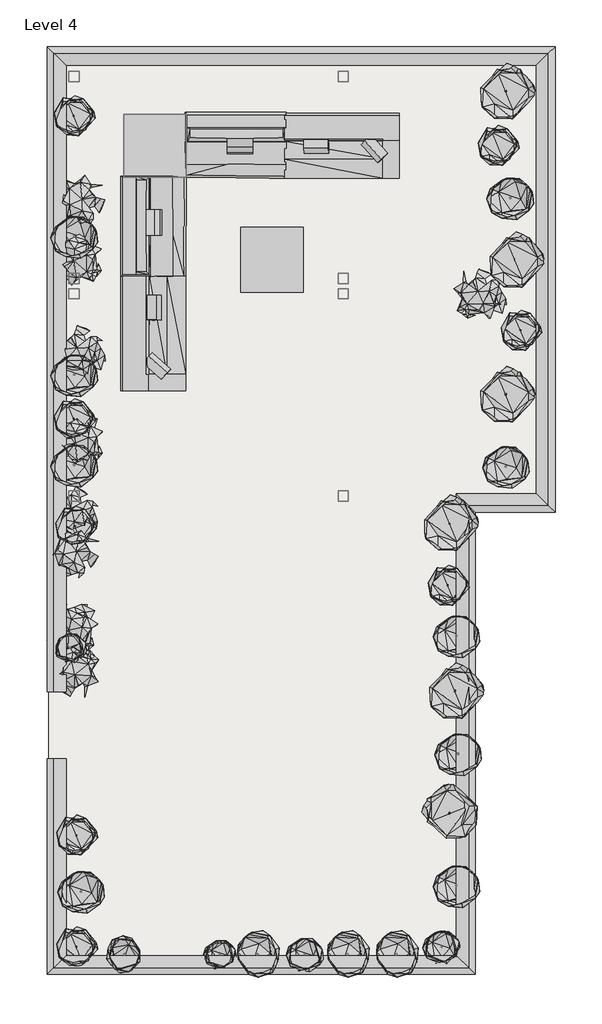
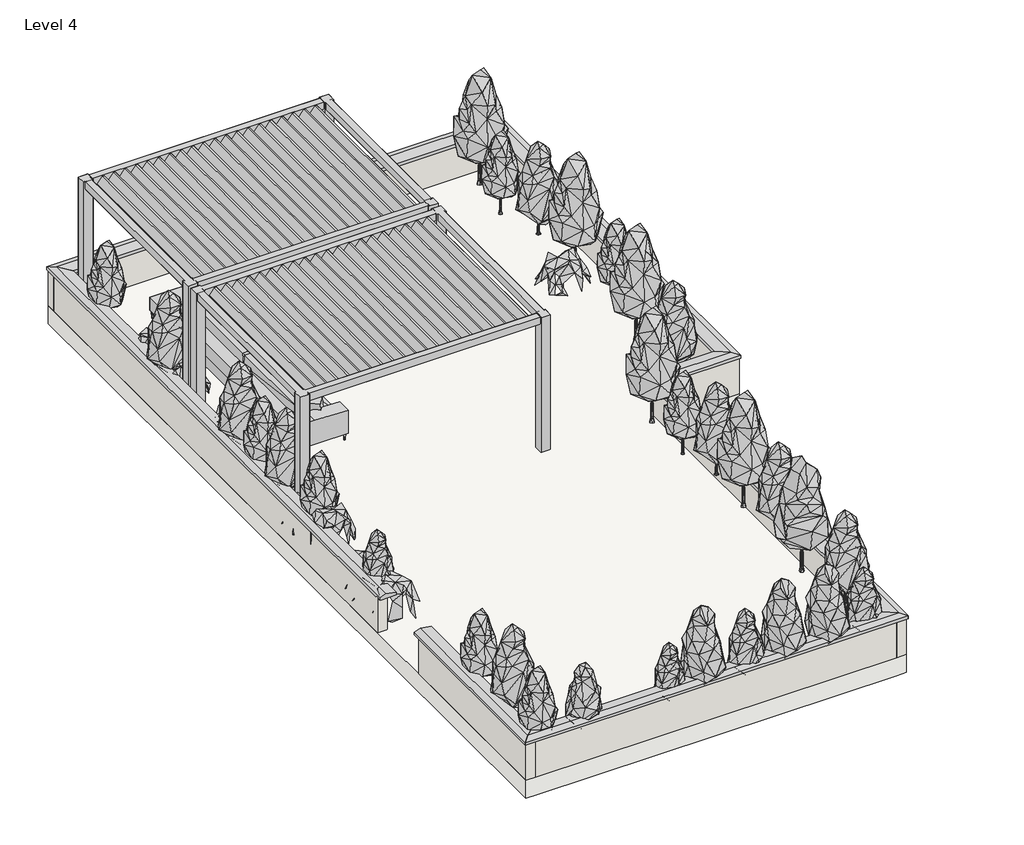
# One storey: 48 geographic elements, 7 proxies, 7 walls, 1 slab.
"""IFC4 building model written with IfcOpenShell, lengths in millimetres."""

from ifc_helpers import new_model, si_unit, frame, origin, place, context, project, spatial, polyline, outline, extrude, faceted_brep, transform, mapped, element, save
from components import geographic_element_4fbb4c08, geographic_element_da99b235, geographic_element_81580eb1, geographic_element_a222e020, geographic_element_6690d7ba, geographic_element_f48ce2c9, enscape_assetdefinition_pergola_001_enscape_assetdefinition_72efe9a7, enscape_assetdefinition_sofa_056_outdoor_modular_enscape_4c990bfc, enscape_assetdefinition_sofa_056_outdoor_modular_enscape_2671a9af, enscape_assetdefinition_sofa_057_outdoor_modular_enscape_592e224a, enscape_assetdefinition_sofa_058_outdoor_modular_enscape_2d4d97e4, enscape_assetdefinition_table_051_outdoor_enscape_9c42c7a7

model = new_model("IFC4")

# Units and contexts
model_context = context("Model", 3, world=origin())
ifc_project = project(units=[si_unit("LENGTHUNIT", "METRE", prefix="MILLI")], contexts=[model_context])

# Site, building, storey
site = spatial("IfcSite", under=ifc_project)
building = spatial("IfcBuilding", under=site)
storey = spatial("IfcBuildingStorey", under=building, Name="Level 4", Elevation=7400.0)

# Proxies
placement = place(None, origin())
element("IfcBuildingElementProxy", 1, Name="Wall Sweeps", at=placement, inside=storey, context=model_context, shape_type="Brep", body=[
    faceted_brep([(24412.9337784, 1697.1206658, 8263.5), (24412.9337784, 1697.1206658, 8200.0), (24768.5337784, 1341.5206658, 8200.0), (24768.5337784, 1341.5206658, 8263.5), (24641.5337784, 1468.5206658, 8301.6), (24412.9337784, 10384.920421, 8263.5), (24641.5337784, 10156.320421, 8301.6), (24768.5337784, 10029.320421, 8263.5), (24768.5337784, 10029.320421, 8200.0), (24412.9337784, 10384.920421, 8200.0)], [[[0, 1, 2, 3, 4]], [[5, 6, 7, 8, 9]], [[1, 0, 5, 9]], [[2, 1, 9, 8]], [[3, 2, 8, 7]], [[4, 3, 7, 6]], [[0, 4, 6, 5]]]),
])
element("IfcBuildingElementProxy", 2, Name="Wall Sweeps", at=placement, inside=storey, context=model_context, shape_type="Brep", body=[
    faceted_brep([(24412.9337784, 10384.920421, 8263.5), (24412.9337784, 10384.920421, 8200.0), (24768.5337784, 10029.320421, 8200.0), (24768.5337784, 10029.320421, 8263.5), (24641.5337784, 10156.320421, 8301.6), (25912.9337784, 10384.920421, 8263.5), (26141.5337784, 10156.320421, 8301.6), (26268.5337784, 10029.320421, 8263.5), (26268.5337784, 10029.320421, 8200.0), (25912.9337784, 10384.920421, 8200.0)], [[[0, 1, 2, 3, 4]], [[5, 6, 7, 8, 9]], [[1, 0, 5, 9]], [[2, 1, 9, 8]], [[3, 2, 8, 7]], [[4, 3, 7, 6]], [[0, 4, 6, 5]]]),
])
element("IfcBuildingElementProxy", 3, Name="Wall Sweeps", at=placement, inside=storey, context=model_context, shape_type="Brep", body=[
    faceted_brep([(25912.9337784, 10384.920421, 8263.5), (25912.9337784, 10384.920421, 8200.0), (26268.5337784, 10029.320421, 8200.0), (26268.5337784, 10029.320421, 8263.5), (26141.5337784, 10156.320421, 8301.6), (25912.9337784, 18436.7206658, 8263.5), (26141.5337784, 18665.3206658, 8301.6), (26268.5337784, 18792.3206658, 8263.5), (26268.5337784, 18792.3206658, 8200.0), (25912.9337784, 18436.7206658, 8200.0)], [[[0, 1, 2, 3, 4]], [[5, 6, 7, 8, 9]], [[1, 0, 5, 9]], [[2, 1, 9, 8]], [[3, 2, 8, 7]], [[4, 3, 7, 6]], [[0, 4, 6, 5]]]),
])
element("IfcBuildingElementProxy", 4, Name="Wall Sweeps", at=placement, inside=storey, context=model_context, shape_type="Brep", body=[
    faceted_brep([(25912.9337784, 18436.7206658, 8263.5), (25912.9337784, 18436.7206658, 8200.0), (26268.5337784, 18792.3206658, 8200.0), (26268.5337784, 18792.3206658, 8263.5), (26141.5337784, 18665.3206658, 8301.6), (17073.3337784, 18436.7206658, 8263.5), (16844.7337784, 18665.3206658, 8301.6), (16717.7337784, 18792.3206658, 8263.5), (16717.7337784, 18792.3206658, 8200.0), (17073.3337784, 18436.7206658, 8200.0)], [[[0, 1, 2, 3, 4]], [[5, 6, 7, 8, 9]], [[1, 0, 5, 9]], [[2, 1, 9, 8]], [[3, 2, 8, 7]], [[4, 3, 7, 6]], [[0, 4, 6, 5]]]),
])
element("IfcBuildingElementProxy", 5, Name="Wall Sweeps", at=placement, inside=storey, context=model_context, shape_type="Brep", body=[
    faceted_brep([(17073.3337784, 18436.7206658, 8263.5), (17073.3337784, 18436.7206658, 8200.0), (16717.7337784, 18792.3206658, 8200.0), (16717.7337784, 18792.3206658, 8263.5), (16844.7337784, 18665.3206658, 8301.6), (17073.3337784, 6655.457015, 8200.0), (17073.3337784, 6655.457015, 8263.5), (16844.7337784, 6655.457015, 8301.6), (16717.7337784, 6655.457015, 8263.5), (16717.7337784, 6655.457015, 8209.1828048), (16733.776024, 6655.457015, 8217.6757583), (16743.1337784, 6655.457015, 8200.0), (16743.1337784, 6795.457015, 8200.0), (16717.7337784, 6795.457015, 8200.0), (16717.7337784, 6795.457015, 8209.1828048), (16717.7337784, 6725.457015, 8243.1276002), (16733.776024, 6795.457015, 8217.6757583), (16719.7393923, 6725.457015, 8244.1893958)], [[[0, 1, 2, 3, 4]], [[5, 6, 7, 8, 9, 10, 11]], [[1, 0, 6, 5]], [[2, 1, 5, 11, 12, 13]], [[3, 2, 13, 14, 15, 9, 8]], [[4, 3, 8, 7]], [[0, 4, 7, 6]], [[16, 12, 11, 10, 17]], [[12, 16, 14, 13]], [[16, 17, 15, 14]], [[17, 10, 9, 15]]]),
])
element("IfcBuildingElementProxy", 6, Name="Wall Sweeps", at=placement, inside=storey, context=model_context, shape_type="Brep", body=[
    faceted_brep([(17073.3337784, 1697.1206658, 8263.5), (17073.3337784, 1697.1206658, 8200.0), (16717.7337784, 1341.5206658, 8200.0), (16717.7337784, 1341.5206658, 8263.5), (16844.7337784, 1468.5206658, 8301.6), (24412.9337784, 1697.1206658, 8263.5), (24641.5337784, 1468.5206658, 8301.6), (24768.5337784, 1341.5206658, 8263.5), (24768.5337784, 1341.5206658, 8200.0), (24412.9337784, 1697.1206658, 8200.0)], [[[0, 1, 2, 3, 4]], [[5, 6, 7, 8, 9]], [[1, 0, 5, 9]], [[2, 1, 9, 8]], [[3, 2, 8, 7]], [[4, 3, 7, 6]], [[0, 4, 6, 5]]]),
])
element("IfcBuildingElementProxy", 7, Name="Wall Sweeps", at=placement, inside=storey, context=model_context, shape_type="Brep", body=[
    faceted_brep([(17073.3337784, 5395.457015, 8263.5), (17073.3337784, 5395.457015, 8200.0), (16717.7337784, 5395.457015, 8200.0), (16717.7337784, 5395.457015, 8263.5), (16844.7337784, 5395.457015, 8301.6), (17073.3337784, 1697.1206658, 8263.5), (16844.7337784, 1468.5206658, 8301.6), (16717.7337784, 1341.5206658, 8263.5), (16717.7337784, 1341.5206658, 8200.0), (17073.3337784, 1697.1206658, 8200.0)], [[[0, 1, 2, 3, 4]], [[5, 6, 7, 8, 9]], [[1, 0, 5, 9]], [[2, 1, 9, 8]], [[3, 2, 8, 7]], [[4, 3, 7, 6]], [[0, 4, 6, 5]]]),
])

# Geographic elements
geographic_element_shape = geographic_element_4fbb4c08(model_context)
element("IfcGeographicElement", 8, ObjectType="Enscape AssetDefinition - Potted Plant 230 Grapevines : Enscape AssetDefinition - Potted Plant 230 Grapevines 2", at=placement, inside=storey, context=model_context, shape_type="MappedRepresentation", body=[
    mapped(geographic_element_shape, transform((17197.5617853, 9259.5001842, 8120.0), x_axis=(-0.7986355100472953, -0.6018150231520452, 0.0), y_axis=(0.6018150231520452, -0.7986355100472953, 0.0), z_axis=(0.0, 0.0, 1.0))),
])
element("IfcGeographicElement", 9, ObjectType="Enscape AssetDefinition - Potted Plant 230 Grapevines : Enscape AssetDefinition - Potted Plant 230 Grapevines 2", at=placement, inside=storey, context=model_context, shape_type="MappedRepresentation", body=[
    mapped(geographic_element_shape, transform((24871.314904, 14125.4182346, 8120.0), x_axis=(0.7434077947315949, -0.668838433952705, 0.0), y_axis=(0.668838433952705, 0.7434077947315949, 0.0), z_axis=(0.0, 0.0, 1.0))),
])
element("IfcGeographicElement", 10, ObjectType="Enscape AssetDefinition - Potted Plant 230 Grapevines : Enscape AssetDefinition - Potted Plant 230 Grapevines 2", at=placement, inside=storey, context=model_context, shape_type="MappedRepresentation", body=[
    mapped(geographic_element_shape, transform((17197.5617853, 7051.1962172, 7911.7582557), x_axis=(-0.6018150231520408, 0.7986355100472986, 0.0), y_axis=(-0.7986355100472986, -0.6018150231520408, 0.0), z_axis=(0.0, 0.0, 1.0))),
])
element("IfcGeographicElement", 11, ObjectType="Enscape AssetDefinition - Potted Plant 230 Grapevines : Enscape AssetDefinition - Potted Plant 230 Grapevines 2", at=placement, inside=storey, context=model_context, shape_type="MappedRepresentation", body=[
    mapped(geographic_element_shape, transform((17197.5617853, 7851.1962172, 7911.7582557), x_axis=(0.7986355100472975, 0.6018150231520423, 0.0), y_axis=(-0.6018150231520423, 0.7986355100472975, 0.0), z_axis=(0.0, 0.0, 1.0))),
])
element("IfcGeographicElement", 12, ObjectType="Enscape AssetDefinition - Potted Plant 230 Grapevines : Enscape AssetDefinition - Potted Plant 230 Grapevines 2", at=placement, inside=storey, context=model_context, shape_type="MappedRepresentation", body=[
    mapped(geographic_element_shape, transform((17207.5630542, 10035.5113529, 7911.7582557), x_axis=(0.6018150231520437, -0.7986355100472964, 0.0), y_axis=(0.7986355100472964, 0.6018150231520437, 0.0), z_axis=(0.0, 0.0, 1.0))),
])
element("IfcGeographicElement", 13, ObjectType="Enscape AssetDefinition - Potted Plant 230 Grapevines : Enscape AssetDefinition - Potted Plant 230 Grapevines 2", at=placement, inside=storey, context=model_context, shape_type="MappedRepresentation", body=[
    mapped(geographic_element_shape, transform((17313.2376066, 15864.5618164, 7993.046519), x_axis=(-0.668838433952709, -0.7434077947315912, 0.0), y_axis=(0.7434077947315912, -0.668838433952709, 0.0), z_axis=(0.0, 0.0, 1.0))),
])
element("IfcGeographicElement", 14, ObjectType="Enscape AssetDefinition - Potted Plant 230 Grapevines : Enscape AssetDefinition - Potted Plant 230 Grapevines 2", at=placement, inside=storey, context=model_context, shape_type="MappedRepresentation", body=[
    mapped(geographic_element_shape, transform((17325.3387926, 13063.7267825, 8000.2535727), x_axis=(0.7434077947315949, -0.668838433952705, 0.0), y_axis=(0.668838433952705, 0.7434077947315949, 0.0), z_axis=(0.0, 0.0, 1.0))),
])
element("IfcGeographicElement", 15, ObjectType="Enscape AssetDefinition - Potted Plant 230 Grapevines : Enscape AssetDefinition - Potted Plant 230 Grapevines 2", at=placement, inside=storey, context=model_context, shape_type="MappedRepresentation", body=[
    mapped(geographic_element_shape, transform((17311.1227499, 11386.6670564, 8000.2535727), x_axis=(0.6688384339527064, 0.7434077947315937, 0.0), y_axis=(-0.7434077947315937, 0.6688384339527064, 0.0), z_axis=(0.0, 0.0, 1.0))),
])
element("IfcGeographicElement", 16, ObjectType="Enscape AssetDefinition - Potted Plant 230 Grapevines : Enscape AssetDefinition - Potted Plant 230 Grapevines 2", at=placement, inside=storey, context=model_context, shape_type="MappedRepresentation", body=[
    mapped(geographic_element_shape, transform((17284.4679763, 14816.3112464, 7993.046519), x_axis=(0.6688384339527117, 0.7434077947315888, 0.0), y_axis=(-0.7434077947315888, 0.6688384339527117, 0.0), z_axis=(0.0, 0.0, 1.0))),
])
geographic_element_2_shape = geographic_element_da99b235(model_context)
element("IfcGeographicElement", 17, ObjectType="Enscape AssetDefinition - Coniferous Tree 015 Spruce : Enscape AssetDefinition - Coniferous Tree 015 Spruce 2", at=placement, inside=storey, context=model_context, shape_type="MappedRepresentation", body=[
    mapped(geographic_element_2_shape, transform((25343.1337784, 10896.9206658, 7702.6603841), x_axis=(1.0, 0.0, 0.0), y_axis=(0.0, 1.0, 0.0), z_axis=(0.0, 0.0, 1.0))),
])
element("IfcGeographicElement", 18, ObjectType="Enscape AssetDefinition - Coniferous Tree 015 Spruce : Enscape AssetDefinition - Coniferous Tree 015 Spruce 2", at=placement, inside=storey, context=model_context, shape_type="MappedRepresentation", body=[
    mapped(geographic_element_2_shape, transform((17352.827151, 2906.6140384, 7702.6603841), x_axis=(1.0, 0.0, 0.0), y_axis=(0.0, 1.0, 0.0), z_axis=(0.0, 0.0, 1.0))),
])
element("IfcGeographicElement", 19, ObjectType="Enscape AssetDefinition - Coniferous Tree 015 Spruce : Enscape AssetDefinition - Coniferous Tree 015 Spruce 2", at=placement, inside=storey, context=model_context, shape_type="MappedRepresentation", body=[
    mapped(geographic_element_2_shape, transform((23282.1656341, 1721.120291, 7702.6603841), x_axis=(0.0, 1.0, 0.0), y_axis=(-1.0, 0.0, 0.0), z_axis=(0.0, 0.0, 1.0))),
])
element("IfcGeographicElement", 20, ObjectType="Enscape AssetDefinition - Coniferous Tree 015 Spruce : Enscape AssetDefinition - Coniferous Tree 015 Spruce 2", at=placement, inside=storey, context=model_context, shape_type="MappedRepresentation", body=[
    mapped(geographic_element_2_shape, transform((24412.9337784, 3011.8884353, 7702.6603841), x_axis=(1.0, 0.0, 0.0), y_axis=(0.0, 1.0, 0.0), z_axis=(0.0, 0.0, 1.0))),
])
element("IfcGeographicElement", 21, ObjectType="Enscape AssetDefinition - Coniferous Tree 015 Spruce : Enscape AssetDefinition - Coniferous Tree 015 Spruce 2", at=placement, inside=storey, context=model_context, shape_type="MappedRepresentation", body=[
    mapped(geographic_element_2_shape, transform((24412.9337784, 7711.8884353, 7702.6603841), x_axis=(1.0, 0.0, 0.0), y_axis=(0.0, 1.0, 0.0), z_axis=(0.0, 0.0, 1.0))),
])
element("IfcGeographicElement", 22, ObjectType="Enscape AssetDefinition - Coniferous Tree 015 Spruce : Enscape AssetDefinition - Coniferous Tree 015 Spruce 2", at=placement, inside=storey, context=model_context, shape_type="MappedRepresentation", body=[
    mapped(geographic_element_2_shape, transform((25424.4493286, 15950.021494, 7702.6603841), x_axis=(1.0, 0.0, 0.0), y_axis=(0.0, 1.0, 0.0), z_axis=(0.0, 0.0, 1.0))),
])
element("IfcGeographicElement", 23, ObjectType="Enscape AssetDefinition - Coniferous Tree 015 Spruce : Enscape AssetDefinition - Coniferous Tree 015 Spruce 2", at=placement, inside=storey, context=model_context, shape_type="MappedRepresentation", body=[
    mapped(geographic_element_2_shape, transform((24443.1337784, 5490.920291, 7702.6603841), x_axis=(1.0, 0.0, 0.0), y_axis=(0.0, 1.0, 0.0), z_axis=(0.0, 0.0, 1.0))),
])
element("IfcGeographicElement", 24, ObjectType="Enscape AssetDefinition - Coniferous Tree 015 Spruce : Enscape AssetDefinition - Coniferous Tree 015 Spruce 2", at=placement, inside=storey, context=model_context, shape_type="MappedRepresentation", body=[
    mapped(geographic_element_2_shape, transform((20669.1329858, 1721.120291, 7702.6603841), x_axis=(0.0, 1.0, 0.0), y_axis=(-1.0, 0.0, 0.0), z_axis=(0.0, 0.0, 1.0))),
])
element("IfcGeographicElement", 25, ObjectType="Enscape AssetDefinition - Coniferous Tree 015 Spruce : Enscape AssetDefinition - Coniferous Tree 015 Spruce 2", at=placement, inside=storey, context=model_context, shape_type="MappedRepresentation", body=[
    mapped(geographic_element_2_shape, transform((22361.7355079, 1721.120291, 7702.6603841), x_axis=(0.0, 1.0, 0.0), y_axis=(-1.0, 0.0, 0.0), z_axis=(0.0, 0.0, 1.0))),
])
element("IfcGeographicElement", 26, ObjectType="Enscape AssetDefinition - Coniferous Tree 015 Spruce : Enscape AssetDefinition - Coniferous Tree 015 Spruce 2", at=placement, inside=storey, context=model_context, shape_type="MappedRepresentation", body=[
    mapped(geographic_element_2_shape, transform((17224.5086923, 12622.5876996, 7702.6603841), x_axis=(1.0, 0.0, 0.0), y_axis=(0.0, 1.0, 0.0), z_axis=(0.0, 0.0, 1.0))),
])
element("IfcGeographicElement", 27, ObjectType="Enscape AssetDefinition - Coniferous Tree 015 Spruce : Enscape AssetDefinition - Coniferous Tree 015 Spruce 2", at=placement, inside=storey, context=model_context, shape_type="MappedRepresentation", body=[
    mapped(geographic_element_2_shape, transform((17224.5086923, 10922.5876996, 7702.6603841), x_axis=(1.0, 0.0, 0.0), y_axis=(0.0, 1.0, 0.0), z_axis=(0.0, 0.0, 1.0))),
])
element("IfcGeographicElement", 28, ObjectType="Enscape AssetDefinition - Coniferous Tree 015 Spruce : Enscape AssetDefinition - Coniferous Tree 015 Spruce 2", at=placement, inside=storey, context=model_context, shape_type="MappedRepresentation", body=[
    mapped(geographic_element_2_shape, transform((17224.5086923, 15222.5876996, 7702.6603841), x_axis=(1.0, 0.0, 0.0), y_axis=(0.0, 1.0, 0.0), z_axis=(0.0, 0.0, 1.0))),
])
geographic_element_3_shape = geographic_element_81580eb1(model_context)
element("IfcGeographicElement", 29, ObjectType="Enscape AssetDefinition - Coniferous Tree 017 Spruce : Enscape AssetDefinition - Coniferous Tree 017 Spruce 2", at=placement, inside=storey, context=model_context, shape_type="MappedRepresentation", body=[
    mapped(geographic_element_3_shape, transform((25343.1337784, 12250.9617023, 7638.4648801), x_axis=(1.0, 0.0, 0.0), y_axis=(0.0, 1.0, 0.0), z_axis=(0.0, 0.0, 1.0))),
])
element("IfcGeographicElement", 30, ObjectType="Enscape AssetDefinition - Coniferous Tree 017 Spruce : Enscape AssetDefinition - Coniferous Tree 017 Spruce 2", at=placement, inside=storey, context=model_context, shape_type="MappedRepresentation", body=[
    mapped(geographic_element_3_shape, transform((25343.1337784, 17950.9617023, 7638.4648801), x_axis=(1.0, 0.0, 0.0), y_axis=(0.0, 1.0, 0.0), z_axis=(0.0, 0.0, 1.0))),
])
element("IfcGeographicElement", 31, ObjectType="Enscape AssetDefinition - Coniferous Tree 017 Spruce : Enscape AssetDefinition - Coniferous Tree 017 Spruce 2", at=placement, inside=storey, context=model_context, shape_type="MappedRepresentation", body=[
    mapped(geographic_element_3_shape, transform((24283.3250352, 4373.541909, 7638.4648801), x_axis=(0.0, 1.0, 0.0), y_axis=(-1.0, 0.0, 0.0), z_axis=(0.0, 0.0, 1.0))),
])
element("IfcGeographicElement", 32, ObjectType="Enscape AssetDefinition - Coniferous Tree 017 Spruce : Enscape AssetDefinition - Coniferous Tree 017 Spruce 2", at=placement, inside=storey, context=model_context, shape_type="MappedRepresentation", body=[
    mapped(geographic_element_3_shape, transform((24283.3250352, 9833.541909, 7638.4648801), x_axis=(1.0, 0.0, 0.0), y_axis=(0.0, 1.0, 0.0), z_axis=(0.0, 0.0, 1.0))),
])
element("IfcGeographicElement", 33, ObjectType="Enscape AssetDefinition - Coniferous Tree 017 Spruce : Enscape AssetDefinition - Coniferous Tree 017 Spruce 2", at=placement, inside=storey, context=model_context, shape_type="MappedRepresentation", body=[
    mapped(geographic_element_3_shape, transform((25517.1267027, 14782.050113, 7638.4648801), x_axis=(1.0, 0.0, 0.0), y_axis=(0.0, 1.0, 0.0), z_axis=(0.0, 0.0, 1.0))),
])
element("IfcGeographicElement", 34, ObjectType="Enscape AssetDefinition - Coniferous Tree 017 Spruce : Enscape AssetDefinition - Coniferous Tree 017 Spruce 2", at=placement, inside=storey, context=model_context, shape_type="MappedRepresentation", body=[
    mapped(geographic_element_3_shape, transform((24384.6952586, 6675.457015, 7638.4648801), x_axis=(1.0, 0.0, 0.0), y_axis=(0.0, 1.0, 0.0), z_axis=(0.0, 0.0, 1.0))),
])
geographic_element_4_shape = geographic_element_a222e020(model_context)
element("IfcGeographicElement", 35, ObjectType="Enscape AssetDefinition - Coniferous Tree 017 Spruce : Enscape AssetDefinition - Coniferous Tree 017 Spruce 4", at=placement, inside=storey, context=model_context, shape_type="MappedRepresentation", body=[
    mapped(geographic_element_4_shape, transform((24252.1788659, 8660.1839297, 7638.4648801), x_axis=(1.0, 0.0, 0.0), y_axis=(0.0, 1.0, 0.0), z_axis=(0.0, 0.0, 1.0))),
])
element("IfcGeographicElement", 36, ObjectType="Enscape AssetDefinition - Coniferous Tree 017 Spruce : Enscape AssetDefinition - Coniferous Tree 017 Spruce 4", at=placement, inside=storey, context=model_context, shape_type="MappedRepresentation", body=[
    mapped(geographic_element_4_shape, transform((17239.5916476, 9770.8686315, 7638.4648801), x_axis=(1.0, 0.0, 0.0), y_axis=(0.0, 1.0, 0.0), z_axis=(0.0, 0.0, 1.0))),
])
element("IfcGeographicElement", 37, ObjectType="Enscape AssetDefinition - Coniferous Tree 017 Spruce : Enscape AssetDefinition - Coniferous Tree 017 Spruce 4", at=placement, inside=storey, context=model_context, shape_type="MappedRepresentation", body=[
    mapped(geographic_element_4_shape, transform((25191.2412802, 16930.5661195, 7638.4648801), x_axis=(1.0, 0.0, 0.0), y_axis=(0.0, 1.0, 0.0), z_axis=(0.0, 0.0, 1.0))),
])
element("IfcGeographicElement", 38, ObjectType="Enscape AssetDefinition - Coniferous Tree 017 Spruce : Enscape AssetDefinition - Coniferous Tree 017 Spruce 4", at=placement, inside=storey, context=model_context, shape_type="MappedRepresentation", body=[
    mapped(geographic_element_4_shape, transform((25617.7839822, 13456.6545888, 7638.4648801), x_axis=(1.0, 0.0, 0.0), y_axis=(0.0, 1.0, 0.0), z_axis=(0.0, 0.0, 1.0))),
])
element("IfcGeographicElement", 39, ObjectType="Enscape AssetDefinition - Coniferous Tree 017 Spruce : Enscape AssetDefinition - Coniferous Tree 017 Spruce 4", at=placement, inside=storey, context=model_context, shape_type="MappedRepresentation", body=[
    mapped(geographic_element_4_shape, transform((17262.5992512, 1862.0910974, 7638.4648801), x_axis=(1.0, 0.0, 0.0), y_axis=(0.0, 1.0, 0.0), z_axis=(0.0, 0.0, 1.0))),
])
element("IfcGeographicElement", 40, ObjectType="Enscape AssetDefinition - Coniferous Tree 017 Spruce : Enscape AssetDefinition - Coniferous Tree 017 Spruce 4", at=placement, inside=storey, context=model_context, shape_type="MappedRepresentation", body=[
    mapped(geographic_element_4_shape, transform((17262.5992512, 3962.0910974, 7638.4648801), x_axis=(1.0, 0.0, 0.0), y_axis=(0.0, 1.0, 0.0), z_axis=(0.0, 0.0, 1.0))),
])
element("IfcGeographicElement", 41, ObjectType="Enscape AssetDefinition - Coniferous Tree 017 Spruce : Enscape AssetDefinition - Coniferous Tree 017 Spruce 4", at=placement, inside=storey, context=model_context, shape_type="MappedRepresentation", body=[
    mapped(geographic_element_4_shape, transform((17217.878842, 11792.0560814, 7638.4648801), x_axis=(1.0, 0.0, 0.0), y_axis=(0.0, 1.0, 0.0), z_axis=(0.0, 0.0, 1.0))),
])
element("IfcGeographicElement", 42, ObjectType="Enscape AssetDefinition - Coniferous Tree 017 Spruce : Enscape AssetDefinition - Coniferous Tree 017 Spruce 4", at=placement, inside=storey, context=model_context, shape_type="MappedRepresentation", body=[
    mapped(geographic_element_4_shape, transform((17217.878842, 17492.0560814, 7638.4648801), x_axis=(1.0, 0.0, 0.0), y_axis=(0.0, 1.0, 0.0), z_axis=(0.0, 0.0, 1.0))),
])
geographic_element_5_shape = geographic_element_6690d7ba(model_context)
element("IfcGeographicElement", 43, ObjectType="Enscape AssetDefinition - Coniferous Tree 015 Spruce : Enscape AssetDefinition - Coniferous Tree 015 Spruce 3", at=placement, inside=storey, context=model_context, shape_type="MappedRepresentation", body=[
    mapped(geographic_element_5_shape, transform((24133.5025021, 1861.2196026, 7638.4648801), x_axis=(1.0, 0.0, 0.0), y_axis=(0.0, 1.0, 0.0), z_axis=(0.0, 0.0, 1.0))),
])
element("IfcGeographicElement", 44, ObjectType="Enscape AssetDefinition - Coniferous Tree 015 Spruce : Enscape AssetDefinition - Coniferous Tree 015 Spruce 3", at=placement, inside=storey, context=model_context, shape_type="MappedRepresentation", body=[
    mapped(geographic_element_5_shape, transform((18169.1329858, 1721.120291, 7702.6603841), x_axis=(0.0, -1.0, 0.0), y_axis=(1.0, 0.0, 0.0), z_axis=(0.0, 0.0, 1.0))),
])
element("IfcGeographicElement", 45, ObjectType="Enscape AssetDefinition - Coniferous Tree 015 Spruce : Enscape AssetDefinition - Coniferous Tree 015 Spruce 3", at=placement, inside=storey, context=model_context, shape_type="MappedRepresentation", body=[
    mapped(geographic_element_5_shape, transform((21561.7355079, 1721.120291, 7702.6603841), x_axis=(1.0, 0.0, 0.0), y_axis=(0.0, 1.0, 0.0), z_axis=(0.0, 0.0, 1.0))),
])
geographic_element_6_shape = geographic_element_f48ce2c9(model_context)
element("IfcGeographicElement", 46, ObjectType="Enscape AssetDefinition - Coniferous Tree 015 Spruce : Enscape AssetDefinition - Coniferous Tree 015 Spruce 4", at=placement, inside=storey, context=model_context, shape_type="MappedRepresentation", body=[
    mapped(geographic_element_6_shape, transform((19961.7355079, 1721.120291, 7702.6603841), x_axis=(1.0, 0.0, 0.0), y_axis=(0.0, 1.0, 0.0), z_axis=(0.0, 0.0, 1.0))),
])
element("IfcGeographicElement", 47, ObjectType="Enscape AssetDefinition - Coniferous Tree 015 Spruce : Enscape AssetDefinition - Coniferous Tree 015 Spruce 4", at=placement, inside=storey, context=model_context, shape_type="MappedRepresentation", body=[
    mapped(geographic_element_6_shape, transform((17147.3927455, 7491.3780683, 7702.6603841), x_axis=(1.0, 0.0, 0.0), y_axis=(0.0, 1.0, 0.0), z_axis=(0.0, 0.0, 1.0))),
])
enscape_assetdefinition_pergola_001_enscape_assetdefinition_shape = enscape_assetdefinition_pergola_001_enscape_assetdefinition_72efe9a7(model_context)
element("IfcGeographicElement", 48, ObjectType="Enscape AssetDefinition - Pergola 001 : Enscape AssetDefinition - Pergola 001 2", at=placement, inside=storey, context=model_context, shape_type="MappedRepresentation", body=[
    mapped(enscape_assetdefinition_pergola_001_enscape_assetdefinition_shape, transform((19763.47037, 16338.382253, 7400.0), x_axis=(1.0, 0.0, 0.0), y_axis=(0.0, 1.0, 0.0), z_axis=(0.0, 0.0, 1.0))),
])
element("IfcGeographicElement", 49, ObjectType="Enscape AssetDefinition - Pergola 001 : Enscape AssetDefinition - Pergola 001 2", at=placement, inside=storey, context=model_context, shape_type="MappedRepresentation", body=[
    mapped(enscape_assetdefinition_pergola_001_enscape_assetdefinition_shape, transform((19763.47037, 12250.9617023, 7400.0), x_axis=(1.0, 0.0, 0.0), y_axis=(0.0, 1.0, 0.0), z_axis=(0.0, 0.0, 1.0))),
])
enscape_assetdefinition_sofa_056_outdoor_modular_enscape_shape = enscape_assetdefinition_sofa_056_outdoor_modular_enscape_4c990bfc(model_context)
element("IfcGeographicElement", 50, ObjectType="Enscape AssetDefinition - Sofa 056 Outdoor Modular : Enscape AssetDefinition - Sofa 056 Outdoor Modular", at=placement, inside=storey, context=model_context, shape_type="MappedRepresentation", body=[
    mapped(enscape_assetdefinition_sofa_056_outdoor_modular_enscape_shape, transform((18718.1337784, 13396.1513326, 7400.0), x_axis=(0.0, 1.0, 0.0), y_axis=(-1.0, 0.0, 0.0), z_axis=(0.0, 0.0, 1.0))),
])
enscape_assetdefinition_sofa_056_outdoor_modular_enscape_2_shape = enscape_assetdefinition_sofa_056_outdoor_modular_enscape_2671a9af(model_context)
element("IfcGeographicElement", 51, ObjectType="Enscape AssetDefinition - Sofa 056 Outdoor Modular : Enscape AssetDefinition - Sofa 056 Outdoor Modular", at=placement, inside=storey, context=model_context, shape_type="MappedRepresentation", body=[
    mapped(enscape_assetdefinition_sofa_056_outdoor_modular_enscape_2_shape, transform((22263.1337784, 16926.5036195, 7400.0), x_axis=(-1.0, 0.0, 0.0), y_axis=(0.0, -1.0, 0.0), z_axis=(0.0, 0.0, 1.0))),
])
enscape_assetdefinition_sofa_057_outdoor_modular_enscape_shape = enscape_assetdefinition_sofa_057_outdoor_modular_enscape_592e224a(model_context)
element("IfcGeographicElement", 52, ObjectType="Enscape AssetDefinition - Sofa 057 Outdoor Modular : Enscape AssetDefinition - Sofa 057 Outdoor Modular", at=placement, inside=storey, context=model_context, shape_type="MappedRepresentation", body=[
    mapped(enscape_assetdefinition_sofa_057_outdoor_modular_enscape_shape, transform((18723.1337784, 15402.8793386, 7400.0), x_axis=(0.0, 1.0, 0.0), y_axis=(-1.0, 0.0, 0.0), z_axis=(0.0, 0.0, 1.0))),
])
element("IfcGeographicElement", 53, ObjectType="Enscape AssetDefinition - Sofa 057 Outdoor Modular : Enscape AssetDefinition - Sofa 057 Outdoor Modular", at=placement, inside=storey, context=model_context, shape_type="MappedRepresentation", body=[
    mapped(enscape_assetdefinition_sofa_057_outdoor_modular_enscape_shape, transform((20258.1337784, 16930.5661195, 7400.0), x_axis=(1.0, 0.0, 0.0), y_axis=(0.0, 1.0, 0.0), z_axis=(0.0, 0.0, 1.0))),
])
enscape_assetdefinition_sofa_058_outdoor_modular_enscape_shape = enscape_assetdefinition_sofa_058_outdoor_modular_enscape_2d4d97e4(model_context)
element("IfcGeographicElement", 54, ObjectType="Enscape AssetDefinition - Sofa 058 Outdoor Modular : Enscape AssetDefinition - Sofa 058 Outdoor Modular", at=placement, inside=storey, context=model_context, shape_type="MappedRepresentation", body=[
    mapped(enscape_assetdefinition_sofa_058_outdoor_modular_enscape_shape, transform((18743.1337784, 16930.5661195, 7400.0), x_axis=(1.0, 0.0, 0.0), y_axis=(0.0, 1.0, 0.0), z_axis=(0.0, 0.0, 1.0))),
])
enscape_assetdefinition_table_051_outdoor_enscape_shape = enscape_assetdefinition_table_051_outdoor_enscape_9c42c7a7(model_context)
element("IfcGeographicElement", 55, ObjectType="Enscape AssetDefinition - Table 051 Outdoor : Enscape AssetDefinition - Table 051 Outdoor", at=placement, inside=storey, context=model_context, shape_type="MappedRepresentation", body=[
    mapped(enscape_assetdefinition_table_051_outdoor_enscape_shape, transform((20943.1337784, 14782.050113, 7400.0), x_axis=(1.0, 0.0, 0.0), y_axis=(0.0, 1.0, 0.0), z_axis=(0.0, 0.0, 1.0))),
])

# Slab
element("IfcSlab", 56, ObjectType="Concrete Slab - 6\"", at=placement, inside=storey, context=model_context, shape_type="Brep", body=[
    faceted_brep([(26243.1337784, 18766.9206658, 7000.0), (26243.1337784, 18566.9206658, 7000.0), (26243.1337784, 15111.715447, 7000.0), (26243.1337784, 10254.720421, 7000.0), (26243.1337784, 10054.720421, 7000.0), (24743.1337784, 10054.720421, 7000.0), (24743.1337784, 1366.9206658, 7000.0), (24543.1337784, 1366.9206658, 7000.0), (16943.1337784, 1366.9206658, 7000.0), (16743.1337784, 1366.9206658, 7000.0), (16743.1337784, 8766.9206658, 7000.0), (16743.1337784, 13066.9206658, 7000.0), (16743.1337784, 17266.9206658, 7000.0), (16743.1337784, 18766.9206658, 7000.0), (16943.1337784, 18766.9206658, 7000.0), (20643.1337784, 18766.9206658, 7000.0), (20843.1337784, 18766.9206658, 7000.0), (24543.1337784, 18766.9206658, 7000.0), (26243.1337784, 18766.9206658, 7400.0), (16743.1337784, 18766.9206658, 7400.0), (16743.1337784, 1366.9206658, 7400.0), (24743.1337784, 1366.9206658, 7400.0), (24743.1337784, 10054.720421, 7400.0), (26243.1337784, 10054.720421, 7400.0)], [[[0, 1, 2, 3, 4, 5, 6, 7, 8, 9, 10, 11, 12, 13, 14, 15, 16, 17]], [[18, 19, 20, 21, 22, 23]], [[4, 3, 2, 1, 0, 18, 23]], [[5, 4, 23, 22]], [[6, 5, 22, 21]], [[9, 8, 7, 6, 21, 20]], [[13, 12, 11, 10, 9, 20, 19]], [[0, 17, 16, 15, 14, 13, 19, 18]]]),
])

# Walls
element("IfcWall", 57, ObjectType="جان پناه", at=placement, inside=storey, context=model_context, shape_type="Brep", body=[
    faceted_brep([(24743.1337784, 1366.9206658, 7400.0), (24743.1337784, 10054.720421, 7400.0), (24743.1337784, 10254.720421, 7400.0), (24743.1337784, 10254.720421, 8200.0), (24743.1337784, 10054.720421, 8200.0), (24743.1337784, 1366.9206658, 8200.0), (24543.1337784, 1366.9206658, 7400.0), (24543.1337784, 1366.9206658, 8200.0), (24543.1337784, 1566.9206658, 8200.0), (24543.1337784, 10254.720421, 8200.0), (24543.1337784, 10254.720421, 7400.0), (24543.1337784, 1566.9206658, 7400.0)], [[[0, 1, 2, 3, 4, 5]], [[6, 7, 8, 9, 10, 11]], [[2, 1, 0, 6, 11, 10]], [[5, 4, 3, 9, 8, 7]], [[3, 2, 10, 9]], [[0, 5, 7, 6]]]),
])
element("IfcWall", 58, ObjectType="جان پناه", at=placement, inside=storey, context=model_context, shape_type="Brep", body=[
    faceted_brep([(24743.1337784, 10054.720421, 7400.0), (26243.1337784, 10054.720421, 7400.0), (26243.1337784, 10054.720421, 8200.0), (24743.1337784, 10054.720421, 8200.0), (24743.1337784, 10254.720421, 7400.0), (24743.1337784, 10254.720421, 8200.0), (26043.1337784, 10254.720421, 8200.0), (26243.1337784, 10254.720421, 8200.0), (26243.1337784, 10254.720421, 7400.0), (26043.1337784, 10254.720421, 7400.0)], [[[0, 1, 2, 3]], [[4, 5, 6, 7, 8, 9]], [[1, 0, 4, 9, 8]], [[3, 2, 7, 6, 5]], [[0, 3, 5, 4]], [[2, 1, 8, 7]]]),
])
element("IfcWall", 59, ObjectType="جان پناه", at=placement, inside=storey, context=model_context, shape_type="Brep", body=[
    faceted_brep([(26243.1337784, 10254.720421, 7400.0), (26243.1337784, 18766.9206658, 7400.0), (26243.1337784, 18766.9206658, 8200.0), (26243.1337784, 10254.720421, 8200.0), (26043.1337784, 10254.720421, 7400.0), (26043.1337784, 10254.720421, 8200.0), (26043.1337784, 18566.9206658, 8200.0), (26043.1337784, 18766.9206658, 8200.0), (26043.1337784, 18766.9206658, 7400.0), (26043.1337784, 18566.9206658, 7400.0)], [[[0, 1, 2, 3]], [[4, 5, 6, 7, 8, 9]], [[1, 0, 4, 9, 8]], [[3, 2, 7, 6, 5]], [[0, 3, 5, 4]], [[2, 1, 8, 7]]]),
])
element("IfcWall", 60, ObjectType="جان پناه", at=placement, inside=storey, context=model_context, shape_type="Brep", body=[
    faceted_brep([(26043.1337784, 18766.9206658, 7400.0), (16743.1337784, 18766.9206658, 7400.0), (16743.1337784, 18766.9206658, 8200.0), (26043.1337784, 18766.9206658, 8200.0), (26043.1337784, 18566.9206658, 7400.0), (26043.1337784, 18566.9206658, 8200.0), (16943.1337784, 18566.9206658, 8200.0), (16743.1337784, 18566.9206658, 8200.0), (16743.1337784, 18566.9206658, 7400.0), (16943.1337784, 18566.9206658, 7400.0)], [[[0, 1, 2, 3]], [[4, 5, 6, 7, 8, 9]], [[1, 0, 4, 9, 8]], [[3, 2, 7, 6, 5]], [[0, 3, 5, 4]], [[2, 1, 8, 7]]]),
])
element("IfcWall", 61, ObjectType="جان پناه", at=placement, inside=storey, context=model_context, shape_type="SweptSolid", body=[
    extrude(outline(polyline([(16743.1337784, 6775.457015), (16743.1337784, 18566.9206658), (16943.1337784, 18566.9206658), (16943.1337784, 6775.457015), (16743.1337784, 6775.457015)])), frame((0.0, 0.0, 7400.0), z_axis=(0.0, 0.0, 1.0), x_axis=(1.0, 0.0, 0.0)), (0.0, 0.0, 1.0), 800.0),
])
element("IfcWall", 62, ObjectType="جان پناه", at=placement, inside=storey, context=model_context, shape_type="SweptSolid", body=[
    extrude(outline(polyline([(24543.1337784, 1366.9206658), (16943.1337784, 1366.9206658), (16943.1337784, 1566.9206658), (24543.1337784, 1566.9206658), (24543.1337784, 1366.9206658)])), frame((0.0, 0.0, 7400.0), z_axis=(0.0, 0.0, 1.0), x_axis=(1.0, 0.0, 0.0)), (0.0, 0.0, 1.0), 800.0),
])
element("IfcWall", 63, ObjectType="جان پناه", at=placement, inside=storey, context=model_context, shape_type="Brep", body=[
    faceted_brep([(16743.1337784, 5275.457015, 7400.0), (16743.1337784, 1366.9206658, 7400.0), (16743.1337784, 1366.9206658, 8200.0), (16743.1337784, 5275.457015, 8200.0), (16943.1337784, 5275.457015, 7400.0), (16943.1337784, 5275.457015, 8200.0), (16943.1337784, 1566.9206658, 8200.0), (16943.1337784, 1366.9206658, 8200.0), (16943.1337784, 1366.9206658, 7400.0), (16943.1337784, 1566.9206658, 7400.0)], [[[0, 1, 2, 3]], [[4, 5, 6, 7, 8, 9]], [[1, 0, 4, 9, 8]], [[3, 2, 7, 6, 5]], [[2, 1, 8, 7]], [[0, 3, 5, 4]]]),
])

save(model, "model.ifc")
